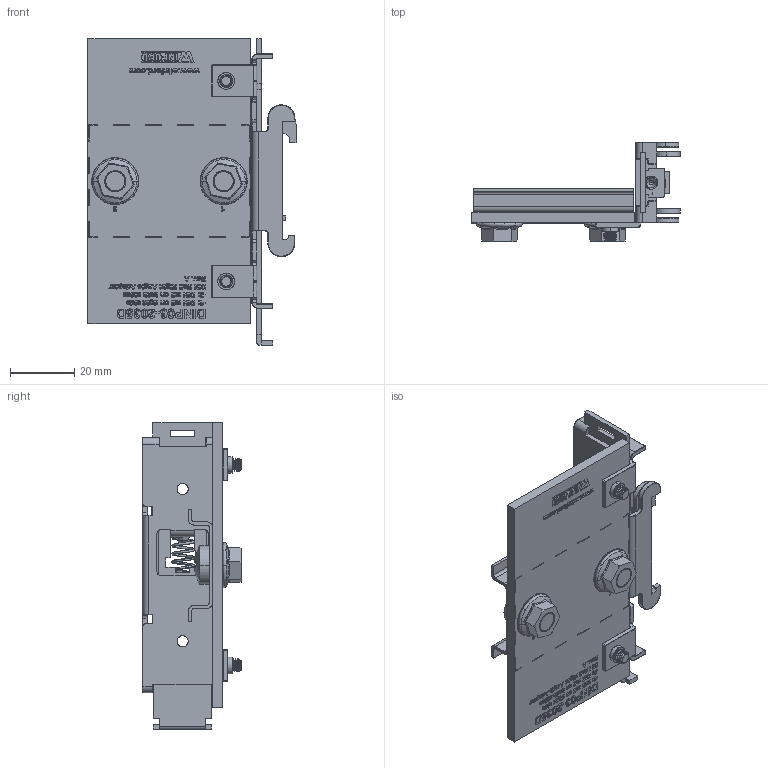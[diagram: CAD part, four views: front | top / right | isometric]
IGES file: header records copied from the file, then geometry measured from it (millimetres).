
Start section: SolidWorks IGES file using analytic representation for surfaces
Global section: file name: W:\end-user\products\dinp\dinp03-2035d\3dmodel\rev_a\DINP03-2035D-1\render\dinp03-2035d-1_rev_a.igs; native system: SolidWorks 2018; preprocessor: SolidWorks 2018; author: leviroy; date: 251003.083848; units: inch
Bounding box: 64.88 x 30.85 x 95.65 mm (x, y, z)
Surface area: 28018.5 mm2 (no closed solid volume)
Topology: 0 solids, 0 shells, 2626 faces, 25893 edges, 25866 vertices
Faces by surface type: bspline 2213, revolution 413
